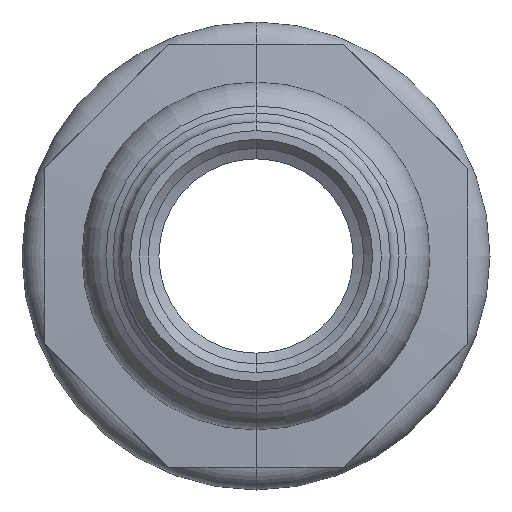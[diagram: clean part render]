
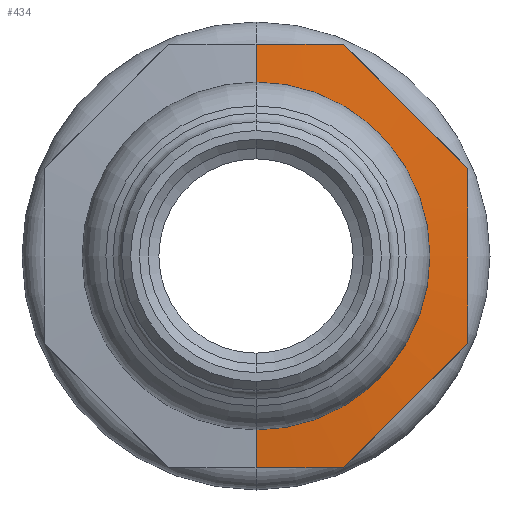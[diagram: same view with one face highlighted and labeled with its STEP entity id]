
A CAD part, front view. The second image highlights one B-rep face of the part: STEP entity #434.
In plain terms, the highlighted conical face has half-angle 85 degrees and reference radius 8.513 mm.
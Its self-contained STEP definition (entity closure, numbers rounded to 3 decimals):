
#4 = VERTEX_POINT ( 'NONE', #1955 ) ;
#50 = ORIENTED_EDGE ( 'NONE', *, *, #454, .F. ) ;
#86 = EDGE_CURVE ( 'NONE', #4, #274, #727, .T. ) ;
#100 = VERTEX_POINT ( 'NONE', #1164 ) ;
#117 = LINE ( 'NONE', #1587, #1580 ) ;
#129 = B_SPLINE_CURVE_WITH_KNOTS ( 'NONE', 3,
 ( #663, #640, #558, #550 ),
 .UNSPECIFIED., .F., .F.,
 ( 4, 4 ),
 ( 0.016, 0.021 ),
 .UNSPECIFIED. ) ;
#130 = CARTESIAN_POINT ( 'NONE',  ( 4.971, 17.271, 12. ) ) ;
#146 = CARTESIAN_POINT ( 'NONE',  ( 3.314, 17.216, -12. ) ) ;
#168 = EDGE_CURVE ( 'NONE', #976, #1732, #312, .T. ) ;
#177 = VERTEX_POINT ( 'NONE', #1738 ) ;
#179 = VERTEX_POINT ( 'NONE', #1749 ) ;
#274 = VERTEX_POINT ( 'NONE', #1377 ) ;
#287 = VERTEX_POINT ( 'NONE', #130 ) ;
#300 = CARTESIAN_POINT ( 'NONE',  ( 6.142, 17.216, 10.828 ) ) ;
#309 = CARTESIAN_POINT ( 'NONE',  ( 4.971, 17.271, 12. ) ) ;
#312 = B_SPLINE_CURVE_WITH_KNOTS ( 'NONE', 3,
 ( #1697, #1581, #1729, #1711, #1717 ),
 .UNSPECIFIED., .F., .F.,
 ( 4, 1, 4 ),
 ( 0., 0.005, 0.01 ),
 .UNSPECIFIED. ) ;
#368 = CARTESIAN_POINT ( 'NONE',  ( 8.485, 17.154, 8.485 ) ) ;
#372 = CARTESIAN_POINT ( 'NONE',  ( 10.828, 17.216, 6.142 ) ) ;
#434 = ADVANCED_FACE ( 'NONE', ( #1155 ), #1229, .T. ) ;
#454 = EDGE_CURVE ( 'NONE', #274, #100, #117, .T. ) ;
#498 = EDGE_CURVE ( 'NONE', #287, #179, #1433, .T. ) ;
#550 = CARTESIAN_POINT ( 'NONE',  ( 4.971, 17.271, 12. ) ) ;
#558 = CARTESIAN_POINT ( 'NONE',  ( 3.314, 17.216, 12. ) ) ;
#640 = CARTESIAN_POINT ( 'NONE',  ( 1.657, 17.185, 12. ) ) ;
#663 = CARTESIAN_POINT ( 'NONE',  ( 0., 17.185, 12. ) ) ;
#666 = ORIENTED_EDGE ( 'NONE', *, *, #1418, .T. ) ;
#727 = CIRCLE ( 'NONE', #1574, 8.513 ) ;
#830 = ORIENTED_EDGE ( 'NONE', *, *, #900, .F. ) ;
#834 = B_SPLINE_CURVE_WITH_KNOTS ( 'NONE', 3,
 ( #1713, #1674, #1655, #1646, #1633, #1626 ),
 .UNSPECIFIED., .F., .F.,
 ( 4, 2, 4 ),
 ( 0.022, 0.027, 0.032 ),
 .UNSPECIFIED. ) ;
#900 = EDGE_CURVE ( 'NONE', #1732, #177, #1113, .T. ) ;
#939 = EDGE_CURVE ( 'NONE', #179, #976, #834, .T. ) ;
#953 = CARTESIAN_POINT ( 'NONE',  ( 0., 16.88, 0. ) ) ;
#976 = VERTEX_POINT ( 'NONE', #1397 ) ;
#990 = DIRECTION ( 'NONE',  ( 0., 1., 0. ) ) ;
#1012 = DIRECTION ( 'NONE',  ( 0., 0., 1. ) ) ;
#1113 = B_SPLINE_CURVE_WITH_KNOTS ( 'NONE', 3,
 ( #1906, #146, #1813, #1809 ),
 .UNSPECIFIED., .F., .F.,
 ( 4, 4 ),
 ( 0.022, 0.027 ),
 .UNSPECIFIED. ) ;
#1114 = LINE ( 'NONE', #1754, #1502 ) ;
#1143 = CARTESIAN_POINT ( 'NONE',  ( 0., 16.88, 0. ) ) ;
#1155 = FACE_OUTER_BOUND ( 'NONE', #1332, .T. ) ;
#1159 = DIRECTION ( 'NONE',  ( 0., 0., -1. ) ) ;
#1164 = CARTESIAN_POINT ( 'NONE',  ( 0., 17.185, 12. ) ) ;
#1182 = DIRECTION ( 'NONE',  ( 0., -1., 0. ) ) ;
#1209 = EDGE_CURVE ( 'NONE', #100, #287, #129, .T. ) ;
#1229 = CONICAL_SURFACE ( 'NONE', #1740, 8.513, 1.484 ) ;
#1323 = ORIENTED_EDGE ( 'NONE', *, *, #86, .F. ) ;
#1332 = EDGE_LOOP ( 'NONE', ( #1323, #666, #830, #1624, #1639, #1806, #1942, #50 ) ) ;
#1370 = DIRECTION ( 'NONE',  ( 0., 0.087, 0.996 ) ) ;
#1377 = CARTESIAN_POINT ( 'NONE',  ( 0., 16.88, 8.513 ) ) ;
#1397 = CARTESIAN_POINT ( 'NONE',  ( 12., 17.271, -4.971 ) ) ;
#1418 = EDGE_CURVE ( 'NONE', #4, #177, #1114, .T. ) ;
#1433 = B_SPLINE_CURVE_WITH_KNOTS ( 'NONE', 3,
 ( #309, #300, #368, #372, #1435 ),
 .UNSPECIFIED., .F., .F.,
 ( 4, 1, 4 ),
 ( 0., 0.005, 0.01 ),
 .UNSPECIFIED. ) ;
#1435 = CARTESIAN_POINT ( 'NONE',  ( 12., 17.271, 4.971 ) ) ;
#1502 = VECTOR ( 'NONE', #1914, 1000. ) ;
#1574 = AXIS2_PLACEMENT_3D ( 'NONE', #1143, #1182, #1159 ) ;
#1580 = VECTOR ( 'NONE', #1370, 1000. ) ;
#1581 = CARTESIAN_POINT ( 'NONE',  ( 10.828, 17.216, -6.142 ) ) ;
#1587 = CARTESIAN_POINT ( 'NONE',  ( 0., 16.88, 8.513 ) ) ;
#1624 = ORIENTED_EDGE ( 'NONE', *, *, #168, .F. ) ;
#1626 = CARTESIAN_POINT ( 'NONE',  ( 12., 17.271, -4.971 ) ) ;
#1633 = CARTESIAN_POINT ( 'NONE',  ( 12., 17.216, -3.314 ) ) ;
#1639 = ORIENTED_EDGE ( 'NONE', *, *, #939, .F. ) ;
#1646 = CARTESIAN_POINT ( 'NONE',  ( 12., 17.185, -1.656 ) ) ;
#1655 = CARTESIAN_POINT ( 'NONE',  ( 12., 17.185, 1.658 ) ) ;
#1674 = CARTESIAN_POINT ( 'NONE',  ( 12., 17.216, 3.315 ) ) ;
#1697 = CARTESIAN_POINT ( 'NONE',  ( 12., 17.271, -4.971 ) ) ;
#1711 = CARTESIAN_POINT ( 'NONE',  ( 6.142, 17.216, -10.828 ) ) ;
#1713 = CARTESIAN_POINT ( 'NONE',  ( 12., 17.271, 4.971 ) ) ;
#1717 = CARTESIAN_POINT ( 'NONE',  ( 4.971, 17.271, -12. ) ) ;
#1729 = CARTESIAN_POINT ( 'NONE',  ( 8.485, 17.154, -8.485 ) ) ;
#1732 = VERTEX_POINT ( 'NONE', #1902 ) ;
#1738 = CARTESIAN_POINT ( 'NONE',  ( 0., 17.185, -12. ) ) ;
#1740 = AXIS2_PLACEMENT_3D ( 'NONE', #953, #990, #1012 ) ;
#1749 = CARTESIAN_POINT ( 'NONE',  ( 12., 17.271, 4.971 ) ) ;
#1754 = CARTESIAN_POINT ( 'NONE',  ( 0., 16.88, -8.513 ) ) ;
#1806 = ORIENTED_EDGE ( 'NONE', *, *, #498, .F. ) ;
#1809 = CARTESIAN_POINT ( 'NONE',  ( 0., 17.185, -12. ) ) ;
#1813 = CARTESIAN_POINT ( 'NONE',  ( 1.657, 17.185, -12. ) ) ;
#1902 = CARTESIAN_POINT ( 'NONE',  ( 4.971, 17.271, -12. ) ) ;
#1906 = CARTESIAN_POINT ( 'NONE',  ( 4.971, 17.271, -12. ) ) ;
#1914 = DIRECTION ( 'NONE',  ( 0., 0.087, -0.996 ) ) ;
#1942 = ORIENTED_EDGE ( 'NONE', *, *, #1209, .F. ) ;
#1955 = CARTESIAN_POINT ( 'NONE',  ( 0., 16.88, -8.513 ) ) ;
